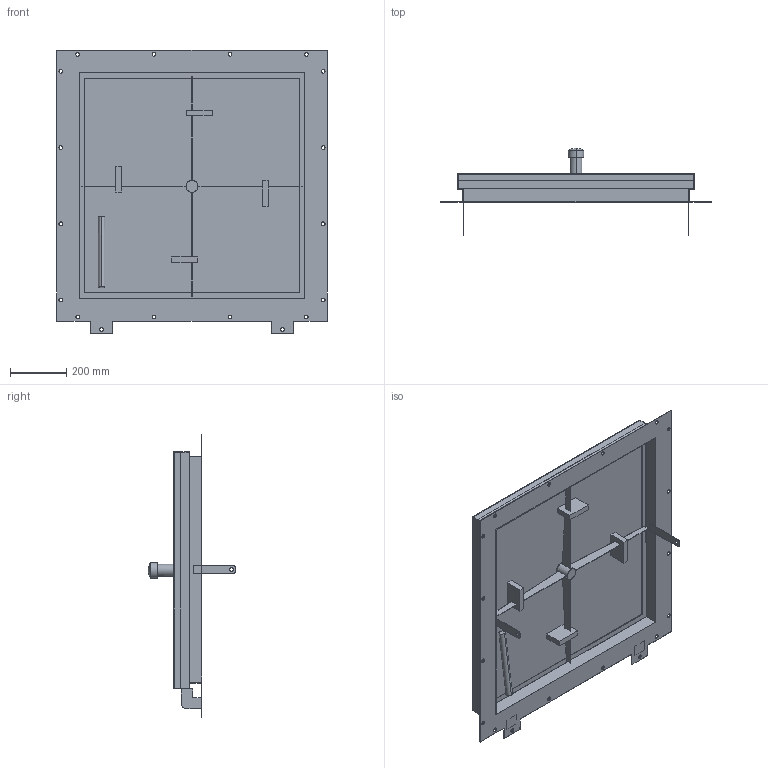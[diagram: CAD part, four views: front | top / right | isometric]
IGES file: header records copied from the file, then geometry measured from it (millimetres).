
Start section:  PTC IGES file: 52310815.igs
Global section: file name: 52310815.igs; native system: Creo Parametric by PTC Inc.; preprocessor: 2022162; author: wep; organization: Unknown; date: 20241017.110241; units: millimetre
Bounding box: 960 x 310 x 1005 mm (x, y, z)
Surface area: 4452697.1 mm2 (no closed solid volume)
Topology: 0 solids, 0 shells, 194 faces, 998 edges, 996 vertices
Faces by surface type: bspline 138, revolution 56
